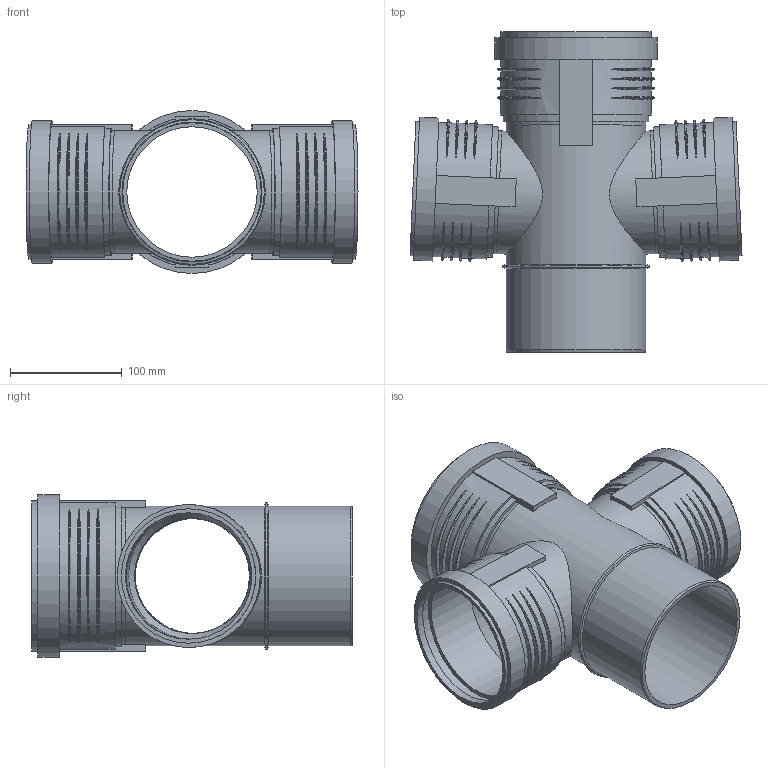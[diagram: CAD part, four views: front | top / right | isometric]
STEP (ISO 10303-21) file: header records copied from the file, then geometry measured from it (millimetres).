
FILE_DESCRIPTION(/* description */ (''),/* implementation_level */ '2;1');
FILE_NAME(/* name */ 'Z:\Geberit\Export\NewStep\390665.stp',/* time_stamp */ '2014-04-02T08:16:12+02:00',/* author */ ('ML'),/* organization */ (''),/* preprocessor_version */ 'ST-DEVELOPER v15.2',/* originating_system */ 'Autodesk Inventor 2014',/* authorisation */ '');
FILE_SCHEMA (('AUTOMOTIVE_DESIGN { 1 0 10303 214 3 1 1 }'));
Length unit declared in the file: millimetre
Products named in the file (4): 861649; 861404; 861625; 390665
Bounding box: 297.2 x 286.9 x 145.9 mm (x, y, z)
Volume: 744898.1 mm3; surface area: 397447 mm2
Topology: 4 solids, 4 shells, 180 faces, 445 edges, 312 vertices
Faces by surface type: torus 74, plane 55, cylinder 46, cone 5
Full cylindrical faces by diameter (mm): 102.8 x2, 103.2 x2, 110 x2, 110.2 x2, 113.3 x4, 116.8 x1, 117 x1, 120.3 x2, 121.1 x2, 125.2 x3, 126.4 x2, 128.1 x2, 134.6 x1, 137.7 x1, 145.9 x1
Entity records: 5313 total; most frequent: CARTESIAN_POINT 2371, ORIENTED_EDGE 538, DIRECTION 532, EDGE_CURVE 269, AXIS2_PLACEMENT_3D 230, VERTEX_POINT 205, EDGE_LOOP 190, STYLED_ITEM 128
